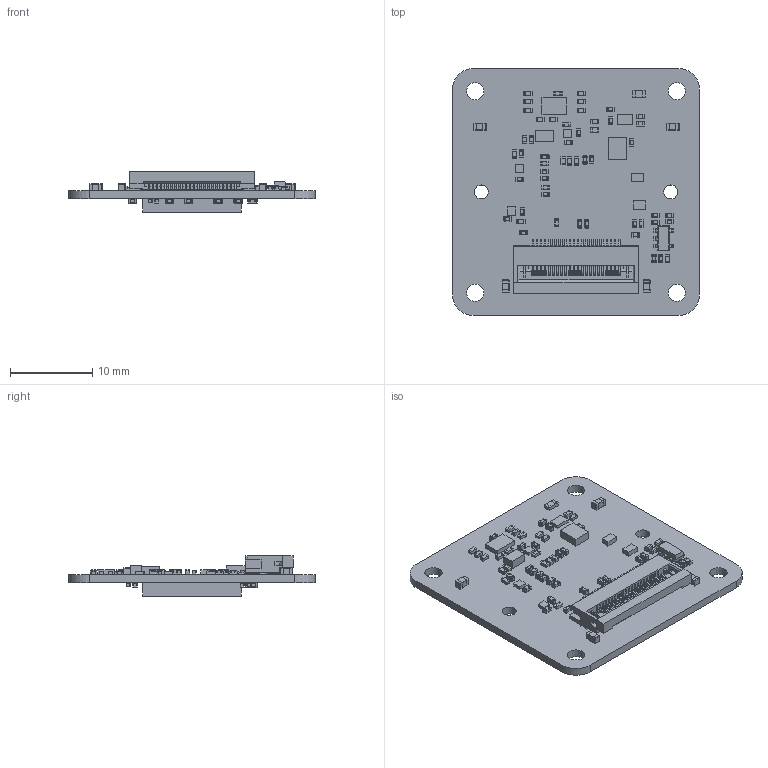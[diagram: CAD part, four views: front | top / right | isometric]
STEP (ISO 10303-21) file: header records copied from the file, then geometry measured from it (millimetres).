
FILE_DESCRIPTION(('Open CASCADE Model'),'2;1');
FILE_NAME('Open CASCADE Shape Model','2024-03-12T18:29:52',('Author'),( 'Open CASCADE'),'Open CASCADE STEP processor 6.8','Open CASCADE 6.8' ,'Unknown');
FILE_SCHEMA(('AUTOMOTIVE_DESIGN { 1 0 10303 214 1 1 1 1 }'));
Length unit declared in the file: millimetre
Products named in the file (137): PCB; Board; Open CASCADE STEP translator 6.8 12.1.1; R1; TIS_0402R_L02_H04; U1; 9073059744; Extruded; 9073059904; C40; TIS_0402C_L025_H06; C39; TIS_0402C_L025_H05; FB4; TIS_0402L_L02_H06; R24; R23; R22; R5; U8; 7881119744; U3; 6688115984; U2; 6583699264; R21; FB3; FB2; C48; C47; C46; C45; C44; C43; R20; R19; FB1; C38; C37; C32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
Assembly tree (401 placements, depth 4):
  PCB
    Board
      Open CASCADE STEP translator 6.8 12.1.1
    R1
      TIS_0402R_L02_H04
      TIS_0402R_L02_H04
      TIS_0402R_L02_H04
      TIS_0402R_L02_H04
    U1
      9073059744
        Extruded
      9073059904
        Extruded
    C40
      TIS_0402C_L025_H06
      TIS_0402C_L025_H06
      TIS_0402C_L025_H06
    C39
      TIS_0402C_L025_H05
      TIS_0402C_L025_H05
      TIS_0402C_L025_H05
    FB4
      TIS_0402L_L02_H06
      TIS_0402L_L02_H06
      TIS_0402L_L02_H06
    R24
      TIS_0402R_L02_H04
      TIS_0402R_L02_H04
      TIS_0402R_L02_H04
      TIS_0402R_L02_H04
    R23
      TIS_0402R_L02_H04
      TIS_0402R_L02_H04
      TIS_0402R_L02_H04
      TIS_0402R_L02_H04
    R22
      TIS_0402R_L02_H04
      TIS_0402R_L02_H04
      TIS_0402R_L02_H04
      TIS_0402R_L02_H04
    R5
      TIS_0402R_L02_H04
      TIS_0402R_L02_H04
      TIS_0402R_L02_H04
      TIS_0402R_L02_H04
    U8
      7881119744
        Extruded
    U3
      6688115984
        Extruded
    U2
      6583699264
        Extruded
    R21
      TIS_0402R_L02_H04
      TIS_0402R_L02_H04
      TIS_0402R_L02_H04
      TIS_0402R_L02_H04
    FB3
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Bounding box: 30.01 x 30 x 4.89 mm (x, y, z)
Volume: 1324.5 mm3; surface area: 3704.5 mm2
Topology: 300 solids, 300 shells, 5749 faces, 13897 edges, 8212 vertices
Faces by surface type: plane 2791, cylinder 2078, torus 440, sphere 440
Full cylindrical faces by diameter (mm): 1.7 x2, 2.1 x4
Entity records: 35543 total; most frequent: DIRECTION 5474, CARTESIAN_POINT 5276, ORIENTED_EDGE 4900, EDGE_CURVE 2450, LINE 1970, VECTOR 1970, AXIS2_PLACEMENT_3D 1752, VERTEX_POINT 1554
